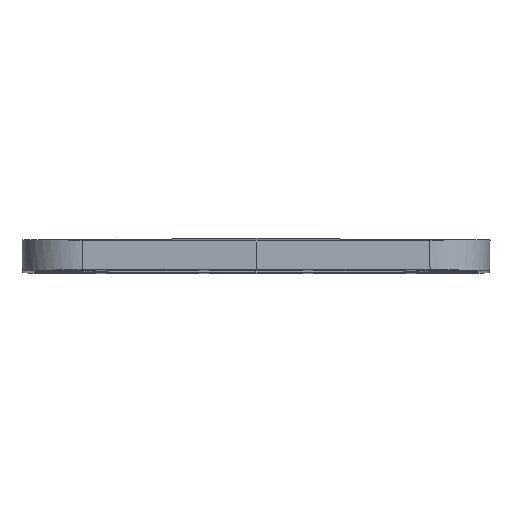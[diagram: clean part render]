
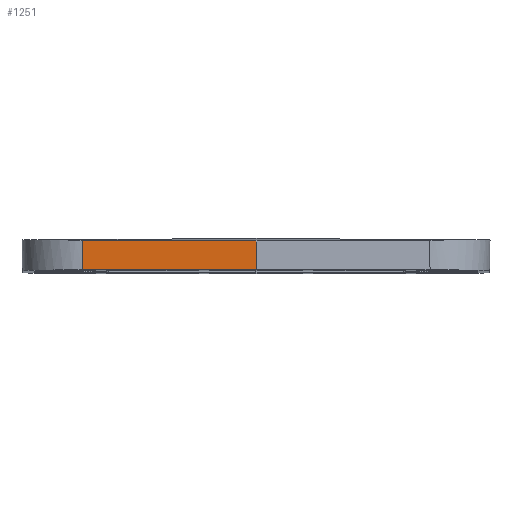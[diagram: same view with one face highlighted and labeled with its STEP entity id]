
A CAD part, front view. The second image highlights one B-rep face of the part: STEP entity #1251.
In plain terms, the highlighted free-form (B-spline) face has degree [1, 3] with [4, 9] control points.
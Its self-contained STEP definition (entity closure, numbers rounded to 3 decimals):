
#204 = CARTESIAN_POINT ( 'NONE',  ( 0., -75.719, 44.401 ) ) ;
#484 = CARTESIAN_POINT ( 'NONE',  ( 0.062, -75.719, 73.237 ) ) ;
#637 = CARTESIAN_POINT ( 'NONE',  ( 0.04, -75.719, 41.323 ) ) ;
#998 = CARTESIAN_POINT ( 'NONE',  ( -18.6, -75.09, 41.312 ) ) ;
#1251 = ADVANCED_FACE ( 'NONE', ( #16702 ), #8152, .T. ) ;
#1534 = CARTESIAN_POINT ( 'NONE',  ( 0., -75.719, 40.26 ) ) ;
#1700 = CARTESIAN_POINT ( 'NONE',  ( 0.186, -75.719, 11.743 ) ) ;
#1883 = CARTESIAN_POINT ( 'NONE',  ( -3.106, -75.717, 44.72 ) ) ;
#2062 = CARTESIAN_POINT ( 'NONE',  ( -18.619, -75.089, 44.813 ) ) ;
#2934 = CARTESIAN_POINT ( 'NONE',  ( 0., -75.719, 11.743 ) ) ;
#3113 = CARTESIAN_POINT ( 'NONE',  ( 0.124, -75.719, 40.26 ) ) ;
#3123 = CARTESIAN_POINT ( 'NONE',  ( 0., -75.719, 73.237 ) ) ;
#3196 = CARTESIAN_POINT ( 'NONE',  ( -12.393, -75.458, 11.786 ) ) ;
#3353 = CARTESIAN_POINT ( 'NONE',  ( -12.422, -75.512, 44.442 ) ) ;
#3597 = ORIENTED_EDGE ( 'NONE', *, *, #11020, .F. ) ;
#4332 = EDGE_LOOP ( 'NONE', ( #4781, #14170, #9062, #3597 ) ) ;
#4348 = CARTESIAN_POINT ( 'NONE',  ( 0.186, -75.719, 40.26 ) ) ;
#4707 = CARTESIAN_POINT ( 'NONE',  ( 0.124, -75.719, 73.237 ) ) ;
#4771 = CARTESIAN_POINT ( 'NONE',  ( 0., -75.719, 44.401 ) ) ;
#4781 = ORIENTED_EDGE ( 'NONE', *, *, #14841, .F. ) ;
#4884 = CARTESIAN_POINT ( 'NONE',  ( -12.441, -75.457, 73.281 ) ) ;
#5692 = EDGE_CURVE ( 'NONE', #9798, #15048, #9808, .T. ) ;
#5813 = CARTESIAN_POINT ( 'NONE',  ( -18.619, -75.089, 44.494 ) ) ;
#5844 = CARTESIAN_POINT ( 'NONE',  ( 0., -75.719, 44.72 ) ) ;
#5993 = CARTESIAN_POINT ( 'NONE',  ( 0.027, -75.719, 42.349 ) ) ;
#6083 = CARTESIAN_POINT ( 'NONE',  ( 0., -75.719, 44.401 ) ) ;
#6204 = CARTESIAN_POINT ( 'NONE',  ( -15.549, -75.3, 73.304 ) ) ;
#6648 = B_SPLINE_CURVE_WITH_KNOTS ( 'NONE', 3,
 ( #5813, #3353, #11166, #6083 ),
 .UNSPECIFIED., .F., .F.,
 ( 4, 4 ),
 ( 0., 0.019 ),
 .UNSPECIFIED. ) ;
#6890 = CARTESIAN_POINT ( 'NONE',  ( -18.58, -75.09, 11.835 ) ) ;
#7144 = CARTESIAN_POINT ( 'NONE',  ( -6.21, -75.667, 40.27 ) ) ;
#7154 = CARTESIAN_POINT ( 'NONE',  ( -6.211, -75.667, 44.731 ) ) ;
#7238 = CARTESIAN_POINT ( 'NONE',  ( 0.124, -75.719, 44.72 ) ) ;
#7664 = CARTESIAN_POINT ( 'NONE',  ( -18.6, -75.09, 41.312 ) ) ;
#8129 = B_SPLINE_CURVE_WITH_KNOTS ( 'NONE', 3,
 ( #11788, #12842, #10211, #15550, #10471, #7664 ),
 .UNSPECIFIED., .F., .F.,
 ( 4, 2, 4 ),
 ( 0.014, 0.024, 0.033 ),
 .UNSPECIFIED. ) ;
#8152 = B_SPLINE_SURFACE_WITH_KNOTS ( 'NONE', 1, 3, ( 
 ( #8822, #6204, #4884, #8466, #14158, #3123, #484, #4707, #13807 ),
 ( #2062, #15473, #13895, #7154, #1883, #5844, #11193, #7238, #12589 ),
 ( #11185, #14939, #11010, #7144, #12322, #1534, #9777, #3113, #4348 ),
 ( #6890, #8456, #3196, #13714, #12238, #2934, #11269, #15030, #1700 ) ),
 .UNSPECIFIED., .F., .F., .F.,
 ( 2, 1, 1, 2 ),
 ( 4, 2, 3, 4 ),
 ( -6.393, 0., 1., 7.393 ),
 ( 0., 0.009, 0.019, 0.019 ),
 .UNSPECIFIED. ) ;
#8456 = CARTESIAN_POINT ( 'NONE',  ( -15.489, -75.301, 11.81 ) ) ;
#8466 = CARTESIAN_POINT ( 'NONE',  ( -6.223, -75.666, 73.248 ) ) ;
#8822 = CARTESIAN_POINT ( 'NONE',  ( -18.653, -75.088, 73.33 ) ) ;
#9062 = ORIENTED_EDGE ( 'NONE', *, *, #5692, .T. ) ;
#9777 = CARTESIAN_POINT ( 'NONE',  ( 0.062, -75.719, 40.26 ) ) ;
#9798 = VERTEX_POINT ( 'NONE', #17061 ) ;
#9808 = B_SPLINE_CURVE_WITH_KNOTS ( 'NONE', 3,
 ( #637, #5993, #15096, #4771 ),
 .UNSPECIFIED., .F., .F.,
 ( 4, 4 ),
 ( 0.031, 1. ),
 .UNSPECIFIED. ) ;
#10075 = EDGE_CURVE ( 'NONE', #9798, #15899, #8129, .T. ) ;
#10211 = CARTESIAN_POINT ( 'NONE',  ( -6.178, -75.667, 41.322 ) ) ;
#10471 = CARTESIAN_POINT ( 'NONE',  ( -15.498, -75.302, 41.315 ) ) ;
#10852 = CARTESIAN_POINT ( 'NONE',  ( -18.6, -75.09, 41.312 ) ) ;
#11010 = CARTESIAN_POINT ( 'NONE',  ( -12.415, -75.457, 40.303 ) ) ;
#11019 = CARTESIAN_POINT ( 'NONE',  ( -18.619, -75.089, 44.494 ) ) ;
#11020 = EDGE_CURVE ( 'NONE', #12687, #15048, #6648, .T. ) ;
#11166 = CARTESIAN_POINT ( 'NONE',  ( -6.211, -75.715, 44.401 ) ) ;
#11185 = CARTESIAN_POINT ( 'NONE',  ( -18.614, -75.089, 40.352 ) ) ;
#11193 = CARTESIAN_POINT ( 'NONE',  ( 0.062, -75.719, 44.72 ) ) ;
#11269 = CARTESIAN_POINT ( 'NONE',  ( 0.062, -75.719, 11.743 ) ) ;
#11788 = CARTESIAN_POINT ( 'NONE',  ( 0.04, -75.719, 41.323 ) ) ;
#12238 = CARTESIAN_POINT ( 'NONE',  ( -3.099, -75.717, 11.743 ) ) ;
#12246 = CARTESIAN_POINT ( 'NONE',  ( -18.613, -75.089, 43.433 ) ) ;
#12322 = CARTESIAN_POINT ( 'NONE',  ( -3.105, -75.717, 40.26 ) ) ;
#12589 = CARTESIAN_POINT ( 'NONE',  ( 0.186, -75.719, 44.72 ) ) ;
#12687 = VERTEX_POINT ( 'NONE', #12707 ) ;
#12707 = CARTESIAN_POINT ( 'NONE',  ( -18.619, -75.089, 44.494 ) ) ;
#12842 = CARTESIAN_POINT ( 'NONE',  ( -3.069, -75.717, 41.323 ) ) ;
#13467 = CARTESIAN_POINT ( 'NONE',  ( -18.606, -75.09, 42.372 ) ) ;
#13572 = B_SPLINE_CURVE_WITH_KNOTS ( 'NONE', 3,
 ( #10852, #13467, #12246, #11019 ),
 .UNSPECIFIED., .F., .F.,
 ( 4, 4 ),
 ( 0.03, 1. ),
 .UNSPECIFIED. ) ;
#13714 = CARTESIAN_POINT ( 'NONE',  ( -6.198, -75.667, 11.753 ) ) ;
#13807 = CARTESIAN_POINT ( 'NONE',  ( 0.186, -75.719, 73.237 ) ) ;
#13895 = CARTESIAN_POINT ( 'NONE',  ( -12.419, -75.457, 44.764 ) ) ;
#14158 = CARTESIAN_POINT ( 'NONE',  ( -3.111, -75.717, 73.237 ) ) ;
#14170 = ORIENTED_EDGE ( 'NONE', *, *, #10075, .F. ) ;
#14841 = EDGE_CURVE ( 'NONE', #15899, #12687, #13572, .T. ) ;
#14939 = CARTESIAN_POINT ( 'NONE',  ( -15.517, -75.301, 40.326 ) ) ;
#15030 = CARTESIAN_POINT ( 'NONE',  ( 0.124, -75.719, 11.743 ) ) ;
#15048 = VERTEX_POINT ( 'NONE', #204 ) ;
#15096 = CARTESIAN_POINT ( 'NONE',  ( 0.014, -75.719, 43.375 ) ) ;
#15473 = CARTESIAN_POINT ( 'NONE',  ( -15.521, -75.3, 44.787 ) ) ;
#15550 = CARTESIAN_POINT ( 'NONE',  ( -12.393, -75.458, 41.318 ) ) ;
#15899 = VERTEX_POINT ( 'NONE', #998 ) ;
#16702 = FACE_OUTER_BOUND ( 'NONE', #4332, .T. ) ;
#17061 = CARTESIAN_POINT ( 'NONE',  ( 0.04, -75.719, 41.323 ) ) ;
